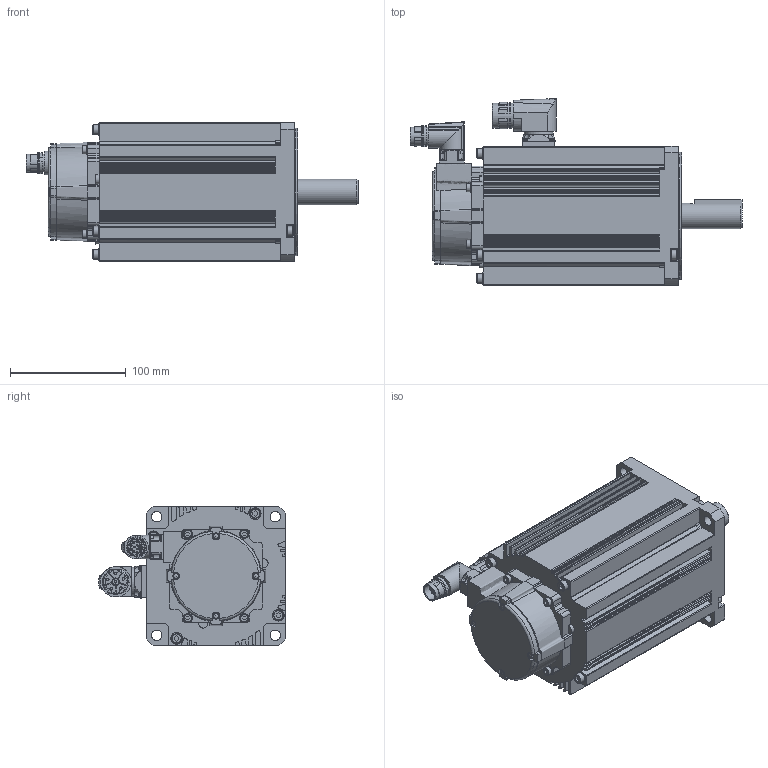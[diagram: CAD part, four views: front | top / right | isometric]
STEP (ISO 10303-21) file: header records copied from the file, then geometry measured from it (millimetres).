
FILE_DESCRIPTION(/* description */ ('STEP AP214'),/* implementation_level */ '2;1');
FILE_NAME(/* name */ 'MSMF304L1H9M',/* time_stamp */ '2025-08-21T07:48:56+02:00',/* author */ ('License CC BY-ND 4.0'),/* organization */ ('CADENAS'),/* preprocessor_version */ 'ST-DEVELOPER v19.3',/* originating_system */ 'PARTsolutions',/* authorisation */ ' ');
FILE_SCHEMA (('AUTOMOTIVE_DESIGN {1 0 10303 214 3 1 1}'));
Length unit declared in the file: millimetre
Products named in the file (4): MSMF304L1H9M; MSMF304L1H9M-Motor; BGC106N00001200000; AGC047N0000150A000_EC
Assembly tree (3 placements, depth 2):
  MSMF304L1H9M
    MSMF304L1H9M-Motor
    BGC106N00001200000
    AGC047N0000150A000_EC
Bounding box: 287.25 x 161.5 x 120 mm (x, y, z)
Volume: 2469158.5 mm3; surface area: 175749.2 mm2
Topology: 3 solids, 3 shells, 1022 faces, 2795 edges, 1864 vertices
Faces by surface type: plane 518, cylinder 405, cone 45, torus 23, bspline 19, sphere 12
Full cylindrical faces by diameter (mm): 1.25 x12, 2.232 x6, 2.459 x1, 2.8 x1, 5.5 x5, 6 x4, 7 x4, 8 x4, 8.5 x8, 9 x4, 10 x8, 13.4 x1, 15.54 x1, 16 x1, 16.2 x1, 19.7 x1, 21.6 x1, 22 x1, 24.1 x1, 38 x1, 110 x1
Entity records: 32427 total; most frequent: CARTESIAN_POINT 6489, DIRECTION 5503, ORIENTED_EDGE 5262, EDGE_CURVE 2631, AXIS2_PLACEMENT_3D 2018, VERTEX_POINT 1817, LINE 1467, VECTOR 1467
